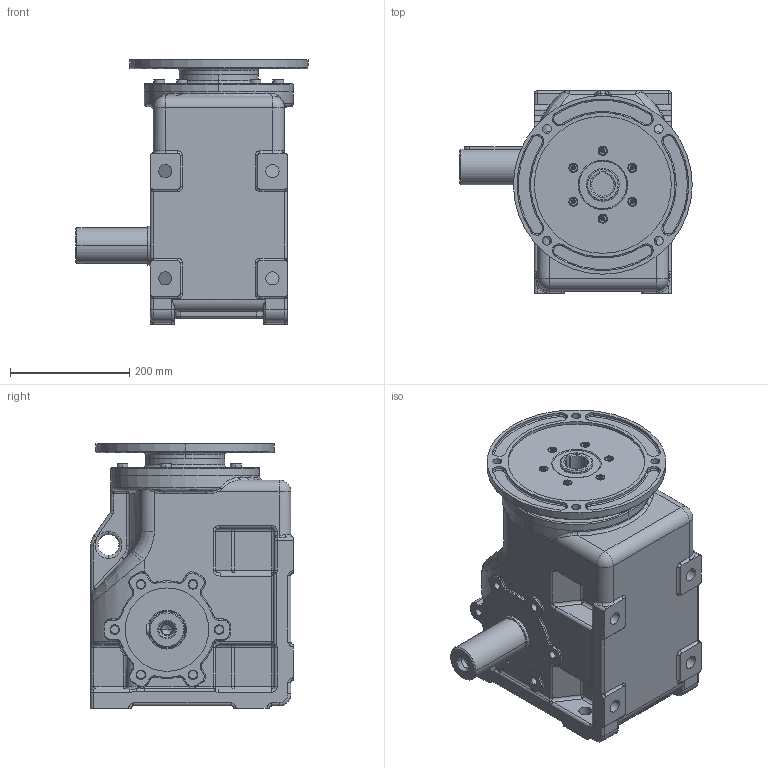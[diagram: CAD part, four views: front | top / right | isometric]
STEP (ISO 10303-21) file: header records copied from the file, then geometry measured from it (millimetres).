
FILE_DESCRIPTION (( 'STEP AP214' ), '1' );
FILE_NAME ('ktm63151-vollwelle l-f265-ap132.STEP', '2009-07-15T07:01:33', ( '' ), ( '' ), 'SwSTEP 2.0', 'SolidWorks 2003240', '' );
FILE_SCHEMA (( 'AUTOMOTIVE_DESIGN' ));
Length unit declared in the file: millimetre
Products named in the file (4): skøíò KTM63_Skøíò KTM53-Vollwelle L-FS-AP132; ktm63151-vollwelle l-f265-ap132; D6912_Šroub DIN 6912 - M8x25; Pøíruba MRT150 kulatá _230-265-300
Assembly tree (8 placements, depth 2):
  ktm63151-vollwelle l-f265-ap132
    D6912_Šroub DIN 6912 - M8x25  x6
    skøíò KTM63_Skøíò KTM53-Vollwelle L-FS-AP132
    Pøíruba MRT150 kulatá _230-265-300
Bounding box: 390 x 340 x 444 mm (x, y, z)
Volume: 26261065.3 mm3; surface area: 907407.4 mm2
Topology: 8 solids, 8 shells, 1197 faces, 2688 edges, 1511 vertices
Faces by surface type: cylinder 443, plane 254, torus 193, cone 138, bspline 135, sphere 34
Entity records: 128711 total; most frequent: CARTESIAN_POINT 105129, DIRECTION 5030, ORIENTED_EDGE 4626, EDGE_CURVE 2313, AXIS2_PLACEMENT_3D 2127, VERTEX_POINT 1356, CIRCLE 1239, EDGE_LOOP 1101
